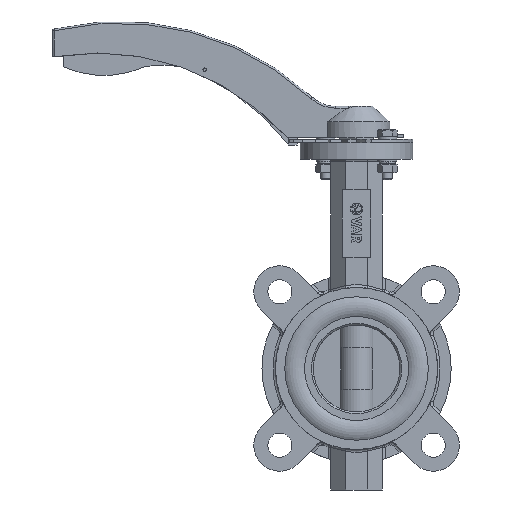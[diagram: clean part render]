
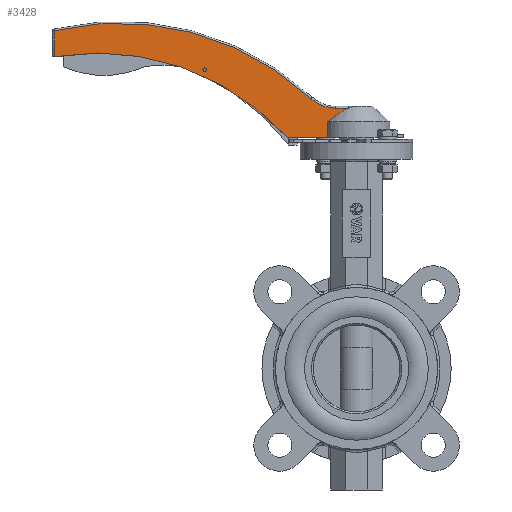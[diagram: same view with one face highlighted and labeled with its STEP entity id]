
A CAD part, left-side view. The second image highlights one B-rep face of the part: STEP entity #3428.
In plain terms, the highlighted planar face has unit normal (-1, 0, 0) as drawn and (0, 1, 0) by its records, which use the part's own axes.
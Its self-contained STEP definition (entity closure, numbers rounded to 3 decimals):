
#3428=ADVANCED_FACE('',(#7846,#7848),#7850,.T.);
#7846=FACE_BOUND('',#7847,.T.);
#7847=EDGE_LOOP('',(#11906,#11907,#11908,#11909,#11910,#11911,#11912,#11913));
#7848=FACE_BOUND('',#7849,.T.);
#7849=EDGE_LOOP('',(#11914));
#7850=PLANE('',#7851);
#7851=AXIS2_PLACEMENT_3D('',#7852,#7853,#7854);
#7852=CARTESIAN_POINT('',(0.,9.375,0.));
#7853=DIRECTION('',(0.,1.,0.));
#7854=DIRECTION('',(-1.,0.,0.));
#11906=ORIENTED_EDGE('',*,*,#13616,.T.);
#11907=ORIENTED_EDGE('',*,*,#13617,.T.);
#11908=ORIENTED_EDGE('',*,*,#13618,.T.);
#11909=ORIENTED_EDGE('',*,*,#13619,.T.);
#11910=ORIENTED_EDGE('',*,*,#13620,.T.);
#11911=ORIENTED_EDGE('',*,*,#13592,.T.);
#11912=ORIENTED_EDGE('',*,*,#13612,.T.);
#11913=ORIENTED_EDGE('',*,*,#13621,.T.);
#11914=ORIENTED_EDGE('',*,*,#13622,.T.);
#13592=EDGE_CURVE('',#15990,#15991,#15992,.T.);
#13612=EDGE_CURVE('',#15991,#16027,#16029,.F.);
#13616=EDGE_CURVE('',#16034,#16035,#16036,.T.);
#13617=EDGE_CURVE('',#16035,#16037,#16038,.T.);
#13618=EDGE_CURVE('',#16037,#16039,#16040,.T.);
#13619=EDGE_CURVE('',#16039,#16041,#16042,.T.);
#13620=EDGE_CURVE('',#16041,#15990,#16043,.T.);
#13621=EDGE_CURVE('',#16027,#16034,#16044,.F.);
#13622=EDGE_CURVE('',#16045,#16045,#16046,.F.);
#15990=VERTEX_POINT('',#24119);
#15991=VERTEX_POINT('',#24120);
#15992=LINE('',#24121,#24122);
#16027=VERTEX_POINT('',#24198);
#16029=LINE('',#24203,#24204);
#16034=VERTEX_POINT('',#24216);
#16035=VERTEX_POINT('',#24217);
#16036=LINE('',#24218,#24219);
#16037=VERTEX_POINT('',#24221);
#16038=CIRCLE('',#24222,21.);
#16039=VERTEX_POINT('',#24226);
#16040=CIRCLE('',#24227,161.707);
#16041=VERTEX_POINT('',#24231);
#16042=LINE('',#24232,#24233);
#16043=CIRCLE('',#24235,146.685);
#16044=B_SPLINE_CURVE_WITH_KNOTS('',3,
(#24239,#24240,#24241,#24242,#24243,#24244,#24245,#24246,#24247,#24248,#24249,#24250,
#24251,#24252,#24253,#24254,#24255,#24256,#24257,#24258,#24259,#24260,#24261,#24262,
#24263,#24264,#24265,#24266,#24267,#24268,#24269,#24270,#24271,#24272,#24273,#24274,
#24275,#24276,#24277,#24278),
.UNSPECIFIED.,.F.,.F.,
(4,1,1,1,1,1,1,1,1,1,1,1,1,1,1,1,1,1,1,1,1,1,1,1,1,1,1,1,1,1,1,1,1,1,1,1,1,4),
(0.,0.02,0.04,0.06,0.08,
0.08,0.1,0.121,0.141,0.161,
0.181,0.202,0.219,0.224,0.246,
0.269,0.294,0.32,0.357,0.369,
0.396,0.437,0.472,0.507,0.546,
0.585,0.586,0.627,0.67,0.714,
0.759,0.805,0.834,0.853,0.901,
0.95,0.978,1.),
.UNSPECIFIED.);
#16045=VERTEX_POINT('',#24279);
#16046=CIRCLE('',#24280,1.);
#24119=CARTESIAN_POINT('',(40.,9.375,0.));
#24120=CARTESIAN_POINT('',(16.749,9.375,0.));
#24121=CARTESIAN_POINT('',(40.,9.375,0.));
#24122=VECTOR('',#24123,1.);
#24123=DIRECTION('',(-1.,0.,0.));
#24198=CARTESIAN_POINT('',(16.749,9.375,9.));
#24203=CARTESIAN_POINT('',(16.749,9.375,9.));
#24204=VECTOR('',#24205,1.);
#24205=DIRECTION('',(0.,0.,-1.));
#24216=CARTESIAN_POINT('',(4.653,9.375,17.));
#24217=CARTESIAN_POINT('',(12.009,9.375,17.));
#24218=CARTESIAN_POINT('',(4.653,9.375,17.));
#24219=VECTOR('',#24220,1.);
#24220=DIRECTION('',(1.,0.,0.));
#24221=CARTESIAN_POINT('',(26.322,9.375,22.633));
#24222=AXIS2_PLACEMENT_3D('',#24223,#24224,#24225);
#24223=CARTESIAN_POINT('',(12.009,9.375,38.));
#24224=DIRECTION('',(0.,-1.,0.));
#24225=DIRECTION('',(0.,0.,-1.));
#24226=CARTESIAN_POINT('',(174.,9.375,61.604));
#24227=AXIS2_PLACEMENT_3D('',#24228,#24229,#24230);
#24228=CARTESIAN_POINT('',(136.531,9.375,-95.703));
#24229=DIRECTION('',(0.,1.,0.));
#24230=DIRECTION('',(-0.682,0.,0.732));
#24231=CARTESIAN_POINT('',(174.,9.375,46.665));
#24232=CARTESIAN_POINT('',(174.,9.375,61.604));
#24233=VECTOR('',#24234,1.);
#24234=DIRECTION('',(0.,0.,-1.));
#24235=AXIS2_PLACEMENT_3D('',#24236,#24237,#24238);
#24236=CARTESIAN_POINT('',(149.223,9.375,-97.912));
#24237=DIRECTION('',(0.,-1.,0.));
#24238=DIRECTION('',(0.169,0.,0.986));
#24239=CARTESIAN_POINT('',(4.653,9.375,17.));
#24240=CARTESIAN_POINT('',(4.742,9.375,16.963));
#24241=CARTESIAN_POINT('',(4.922,9.375,16.889));
#24242=CARTESIAN_POINT('',(5.189,9.375,16.772));
#24243=CARTESIAN_POINT('',(5.455,9.375,16.652));
#24244=CARTESIAN_POINT('',(5.631,9.375,16.569));
#24245=CARTESIAN_POINT('',(5.807,9.375,16.485));
#24246=CARTESIAN_POINT('',(5.983,9.375,16.4));
#24247=CARTESIAN_POINT('',(6.246,9.375,16.268));
#24248=CARTESIAN_POINT('',(6.507,9.375,16.133));
#24249=CARTESIAN_POINT('',(6.768,9.375,15.995));
#24250=CARTESIAN_POINT('',(7.03,9.375,15.853));
#24251=CARTESIAN_POINT('',(7.277,9.375,15.716));
#24252=CARTESIAN_POINT('',(7.455,9.375,15.614));
#24253=CARTESIAN_POINT('',(7.64,9.375,15.508));
#24254=CARTESIAN_POINT('',(7.85,9.375,15.386));
#24255=CARTESIAN_POINT('',(8.143,9.375,15.212));
#24256=CARTESIAN_POINT('',(8.449,9.375,15.026));
#24257=CARTESIAN_POINT('',(8.81,9.375,14.802));
#24258=CARTESIAN_POINT('',(9.118,9.375,14.607));
#24259=CARTESIAN_POINT('',(9.428,9.375,14.406));
#24260=CARTESIAN_POINT('',(9.755,9.375,14.193));
#24261=CARTESIAN_POINT('',(10.168,9.375,13.918));
#24262=CARTESIAN_POINT('',(10.614,9.375,13.614));
#24263=CARTESIAN_POINT('',(11.045,9.375,13.315));
#24264=CARTESIAN_POINT('',(11.495,9.375,12.998));
#24265=CARTESIAN_POINT('',(11.806,9.375,12.775));
#24266=CARTESIAN_POINT('',(12.128,9.375,12.543));
#24267=CARTESIAN_POINT('',(12.459,9.375,12.303));
#24268=CARTESIAN_POINT('',(12.956,9.375,11.936));
#24269=CARTESIAN_POINT('',(13.467,9.375,11.554));
#24270=CARTESIAN_POINT('',(13.992,9.375,11.156));
#24271=CARTESIAN_POINT('',(14.456,9.375,10.801));
#24272=CARTESIAN_POINT('',(14.817,9.375,10.522));
#24273=CARTESIAN_POINT('',(15.184,9.375,10.237));
#24274=CARTESIAN_POINT('',(15.628,9.375,9.89));
#24275=CARTESIAN_POINT('',(16.103,9.375,9.514));
#24276=CARTESIAN_POINT('',(16.477,9.375,9.217));
#24277=CARTESIAN_POINT('',(16.665,9.375,9.067));
#24278=CARTESIAN_POINT('',(16.749,9.375,9.));
#24279=CARTESIAN_POINT('',(86.5,9.375,39.154));
#24280=AXIS2_PLACEMENT_3D('',#24281,#24282,#24283);
#24281=CARTESIAN_POINT('',(87.5,9.375,39.154));
#24282=DIRECTION('',(0.,1.,0.));
#24283=DIRECTION('',(-1.,0.,0.));
